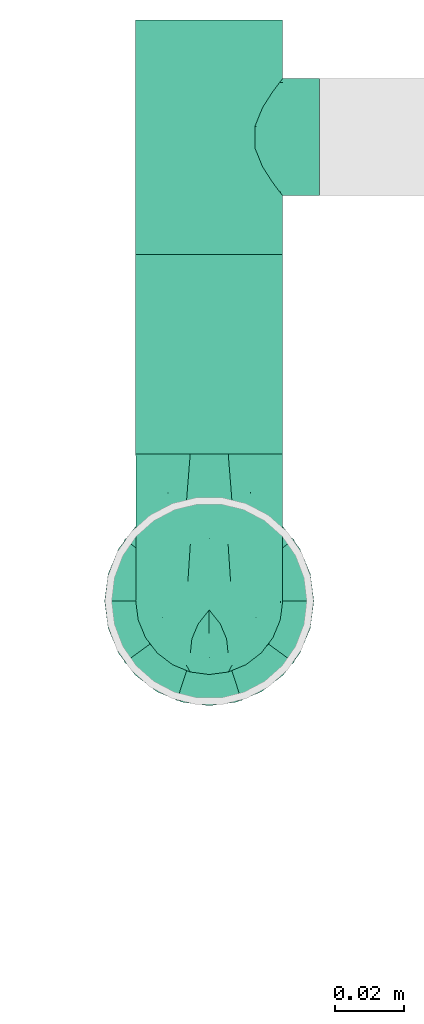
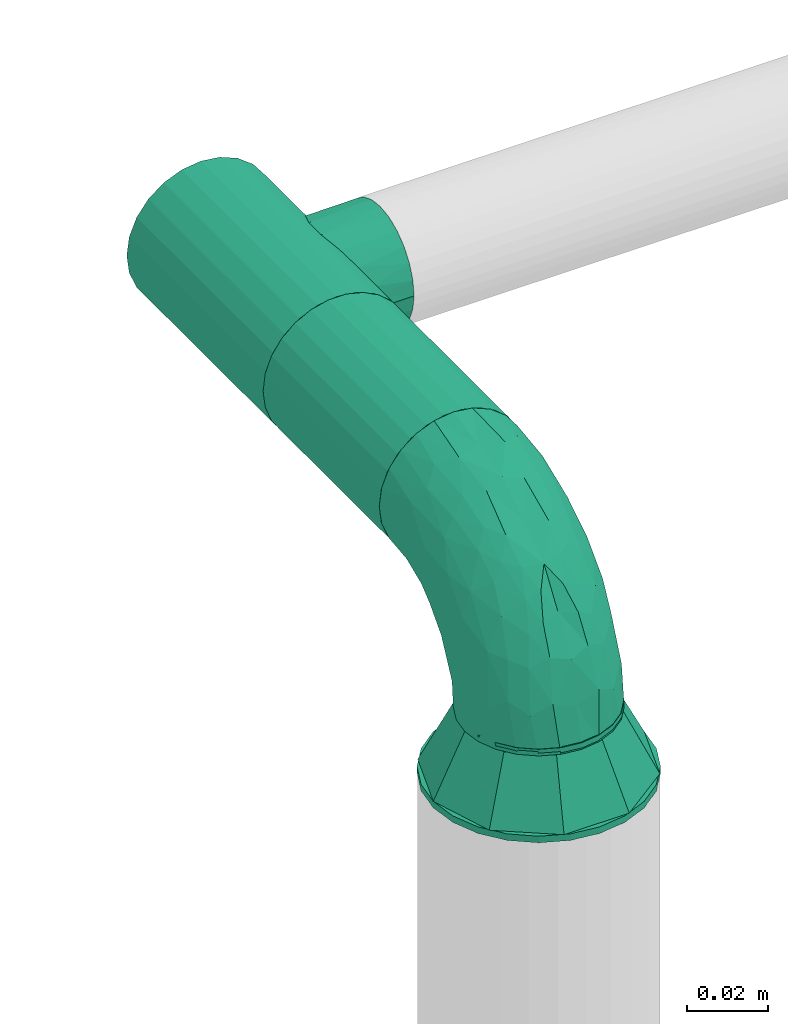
# One storey, part 57 of 63: 3 flow fittings, 1 flow segment.
"""IFC2X3 building model written with IfcOpenShell, lengths in millimetres."""

from ifc_helpers import new_model, entity, si_unit, converted_unit, derived_unit, direction, frame, origin_with_axes, origin_2d_with_axis, place, context, subcontext, project, spatial, hollow_circle, extrude, open_shell, surface_model, source, transform, mapped, type_object, element, save


model = new_model("IFC2X3")

# Units and contexts
model_context = context("Model", 3, precision=0.01, world=frame((0.0, 4.29681676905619e-09, 0.0)), true_north=direction((4.01073788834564e-13, 1.0)))
plan_context = context("Plan", 3, precision=0.01, world=frame((0.0, 4.29681676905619e-09, 0.0)), true_north=direction((4.01073788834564e-13, 1.0)))
body_context = subcontext(model_context, "Body", "Model", "MODEL_VIEW")
ifc_project = project(units=[converted_unit("PLANEANGLEUNIT", "DEGREE", entity("IfcPositiveLengthMeasure", 0.0174532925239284), si_unit("PLANEANGLEUNIT", "RADIAN"), dimensions=[0, 0, 0, 0, 0, 0, 0]), si_unit("AREAUNIT", "SQUARE_METRE"), si_unit("LENGTHUNIT", "METRE", prefix="MILLI"), si_unit("MASSUNIT", "GRAM", prefix="KILO"), si_unit("POWERUNIT", "WATT"), si_unit("PRESSUREUNIT", "PASCAL", prefix="KILO"), si_unit("FORCEUNIT", "NEWTON", prefix="KILO"), si_unit("ELECTRICVOLTAGEUNIT", "VOLT"), si_unit("ELECTRICCURRENTUNIT", "AMPERE"), si_unit("THERMODYNAMICTEMPERATUREUNIT", "DEGREE_CELSIUS"), si_unit("TIMEUNIT", "SECOND"), si_unit("VOLUMEUNIT", "CUBIC_METRE"), derived_unit("LINEARVELOCITYUNIT", [(si_unit("LENGTHUNIT", "METRE"), 1), (si_unit("TIMEUNIT", "SECOND"), -1)]), derived_unit("VOLUMETRICFLOWRATEUNIT", [(si_unit("VOLUMEUNIT", "CUBIC_METRE"), 1), (si_unit("TIMEUNIT", "SECOND"), -1)]), derived_unit("THERMALTRANSMITTANCEUNIT", [(si_unit("POWERUNIT", "WATT"), 1), (si_unit("THERMODYNAMICTEMPERATUREUNIT", "KELVIN"), -1), (si_unit("AREAUNIT", "SQUARE_METRE"), -1)]), derived_unit("SOUNDPRESSUREUNIT", [(si_unit("PRESSUREUNIT", "PASCAL"), 1)])], contexts=[model_context, plan_context])

# Site, building, storey
site_placement = place(None, frame((0.0, -4.29681676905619e-09, 0.0), z_axis=(0.0, 0.0, 1.0), x_axis=(1.0, 0.0, 0.0)))
site = spatial("IfcSite", under=ifc_project, at=site_placement, CompositionType="ELEMENT")
building_placement = place(site_placement, frame((0.0, 4.29681676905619e-09, 0.0), z_axis=(0.0, 0.0, 1.0), x_axis=(1.0, 0.0, 0.0)))
building = spatial("IfcBuilding", under=site, at=building_placement, Name="mc-building", CompositionType="ELEMENT")
storey_placement = place(building_placement, frame((0.0, 0.0, 207370.0), z_axis=(0.0, 0.0, 1.0), x_axis=(1.0, 0.0, 0.0)))
storey = spatial("IfcBuildingStorey", under=building, at=storey_placement, Name="Nivå E", CompositionType="ELEMENT", Elevation=207370.0)

# Flow fittings
pipe_fitting_type_1 = type_object("IfcPipeFittingType", Name="magi_pipe_fe_elbow_short_001", PredefinedType="BEND")
shared_shape_1 = source(origin_with_axes(), body_context, "Body", "SurfaceModel", [
    surface_model("IfcShellBasedSurfaceModel", [(-42.4, 10.6, -18.35974), (-42.4, 5.48696, -20.47763), (-42.4, 0.0, -21.2), (-42.4, 14.99066, -14.99066), (-42.4, 20.47763, -5.48696), (-42.4, 18.35974, -10.6), (-42.4, -14.99066, 14.99066), (-42.4, -21.2, 0.0), (-42.4, -10.6, -18.35974), (-42.4, -14.99066, -14.99066), (-42.4, -5.48696, -20.47763), (-42.4, -18.35974, -10.6), (-42.4, -20.47763, -5.48696), (-42.4, 10.6, 18.35974), (-42.4, 20.47763, 5.48696), (-42.4, 18.35974, 10.6), (-42.4, 14.99066, 14.99066), (-42.4, 5.48696, 20.47763), (-42.4, 0.0, 21.2), (-42.4, -20.47763, 5.48696), (-42.4, -18.35974, 10.6), (-42.4, -10.6, 18.35974), (-42.4, -5.48696, 20.47763), (-42.4, 21.2, 0.0), (0.0, 42.4, -21.2), (-5.48696, 42.4, -20.47763), (-10.6, 42.4, -18.35974), (-14.99066, 42.4, -14.99066), (-18.35974, 42.4, -10.6), (-20.47763, 42.4, -5.48696), (21.2, 42.4, 0.0), (5.48696, 42.4, -20.47763), (14.99066, 42.4, -14.99066), (10.6, 42.4, -18.35974), (18.35974, 42.4, -10.6), (20.47763, 42.4, -5.48696), (14.99066, 42.4, 14.99066), (-20.47763, 42.4, 5.48696), (-10.6, 42.4, 18.35974), (-14.99066, 42.4, 14.99066), (-18.35974, 42.4, 10.6), (-5.48696, 42.4, 20.47763), (0.0, 42.4, 21.2), (18.35974, 42.4, 10.6), (20.47763, 42.4, 5.48696), (5.48696, 42.4, 20.47763), (10.6, 42.4, 18.35974), (-21.2, 42.4, 0.0), (-31.10239, -16.47009, 11.90111), (-27.83957, -12.231, 15.79732), (-30.23067, -18.77937, 0.0), (-18.74048, -13.50096, 10.69998), (-28.17586, -18.50359, 6.61185), (18.50359, 28.17586, 6.61185), (14.95929, 16.60735, 5.43468), (16.35874, 18.06133, 0.0), (-20.72313, 33.83635, 9.21426), (-17.70981, 33.00599, 13.92769), (-31.16033, -8.01664, 19.07348), (-32.38682, -2.80842, 20.83743), (-29.68688, 3.24967, 21.16387), (-7.74467, -9.46536, 0.0), (-16.60735, -14.95929, 5.43468), (-18.06133, -16.35874, 0.0), (-16.37932, -5.14532, 17.61254), (-21.10659, -0.19025, 20.54817), (-1.82445, -3.58377, 9.55223), (-0.35533, 0.43745, 12.66367), (-7.20655, -5.07682, 13.06146), (-33.14056, 17.6728, 13.91288), (-7.36799, 20.84806, 21.16196), (-15.70315, 15.70315, 20.68489), (-12.62356, 9.26422, 21.0908), (-36.67879, 12.83836, 17.27427), (-7.91358, 36.5686, 19.85759), (-2.90555, 31.71221, 21.14793), (-33.84689, 20.71971, 9.21285), (-33.51649, 22.58113, 4.66115), (-26.3226, 26.3226, 7.92474), (-32.67995, 8.31454, 20.02643), (-5.53379, 14.19921, 20.81623), (-10.53385, 3.88918, 19.79653), (-2.16577, 11.45378, 19.48254), (-3.78693, 3.78693, 17.3328), (12.231, 27.83957, 15.79732), (13.50096, 18.74047, 10.69998), (16.47009, 31.10239, 11.90111), (-22.53806, 14.38475, 19.60876), (-23.29615, 9.08095, 20.82061), (2.80842, 32.38682, 20.83743), (8.01664, 31.16033, 19.07348), (5.14532, 16.37932, 17.61254), (18.77937, 30.23067, 0.0), (-20.80278, 5.19491, 21.19095), (-19.62579, 22.38752, 17.42006), (-29.19336, 14.39093, 17.85259), (-22.31569, 34.20044, 4.54807), (-26.56962, 27.80621, 3.73106), (9.67657, 17.17133, 14.49993), (-24.04026, 31.8, 0.0), (-9.16861, 28.72652, 20.19004), (-12.09761, 21.9456, 20.37969), (-15.36991, 27.40112, 17.818), (-16.88976, 20.52477, 19.2896), (-12.95169, 35.54896, 17.36222), (-17.17133, -9.67657, 14.49993), (-21.98655, 28.10245, 11.99898), (-22.34699, 23.67592, 15.01692), (-27.22822, 22.77969, 11.82161), (0.19025, 21.10658, 20.54817), (4.8276, 7.36347, 13.42842), (-10.06209, -9.46364, 9.95114), (1.25876, -2.7536, 5.73797), (6.43781, 3.77591, 7.40371), (6.57528, 2.20066, 3.17705), (10.91934, 8.84313, 5.00748), (10.64415, 10.99764, 8.89767), (-31.8, 24.04026, 0.0), (-5.71381, -8.43063, 6.15529), (2.57199, -2.57199, 0.0), (9.46536, 7.74467, 0.0), (-17.17133, -9.67657, -14.49993), (-27.83957, -12.231, -15.79732), (-16.37932, -5.14532, -17.61254), (-18.74048, -13.50096, -10.69998), (-33.00599, 17.70981, -13.92769), (-35.54896, 12.95169, -17.36222), (-34.20044, 22.31569, -4.54807), (-28.17586, -18.50359, -6.61185), (-26.3226, 26.3226, -7.92474), (-33.83635, 20.72313, -9.21426), (-16.60735, -14.95929, -5.43468), (-20.52477, 16.88976, -19.2896), (-21.9456, 12.0976, -20.37969), (-27.40112, 15.36991, -17.818), (-12.83836, 36.67879, -17.27427), (-17.6728, 33.14056, -13.91288), (8.01664, 31.16033, -19.07348), (5.14532, 16.37932, -17.61254), (0.19025, 21.10658, -20.54817), (-36.5686, 7.91358, -19.85759), (-31.10239, -16.47009, -11.90111), (-31.16033, -8.01664, -19.07348), (-14.38475, 22.53806, -19.60876), (-8.31454, 32.67995, -20.02643), (-9.08095, 23.29615, -20.82061), (-32.38682, -2.80842, -20.83743), (-20.84806, 7.36799, -21.16196), (-15.70315, 15.70314, -20.68489), (-9.26422, 12.62356, -21.0908), (-31.71221, 2.90555, -21.14793), (-22.58113, 33.51649, -4.66115), (-20.71971, 33.84689, -9.21285), (-28.72652, 9.16861, -20.19004), (-27.80621, 26.56962, -3.73106), (-5.19491, 20.80278, -21.19095), (-22.38752, 19.62579, -17.42006), (-14.39093, 29.19336, -17.85259), (2.80842, 32.38682, -20.83743), (-3.24967, 29.68688, -21.16387), (16.47009, 31.10239, -11.90111), (12.231, 27.83957, -15.79732), (6.57528, 2.20067, -3.17705), (10.91934, 8.84313, -5.00749), (-14.19921, 5.53379, -20.81623), (-3.88918, 10.53385, -19.79653), (-11.45378, 2.16577, -19.48254), (1.25876, -2.7536, -5.73797), (-5.71381, -8.43063, -6.15529), (-1.82445, -3.58377, -9.55223), (13.50096, 18.74048, -10.69998), (18.50359, 28.17586, -6.61185), (14.95929, 16.60735, -5.43468), (-28.10245, 21.98655, -11.99898), (9.67657, 17.17133, -14.49993), (10.64415, 10.99764, -8.89767), (4.8276, 7.36347, -13.42842), (-23.67592, 22.34699, -15.01692), (-22.77969, 27.22822, -11.82161), (-21.10658, -0.19025, -20.54817), (-3.78693, 3.78693, -17.3328), (-7.20655, -5.07682, -13.06146), (-10.06209, -9.46364, -9.95113), (-0.35533, 0.43745, -12.66367), (6.43781, 3.77591, -7.40371)], [open_shell([[[0, 1, 2]], [[3, 0, 2]], [[4, 5, 3]], [[2, 4, 3]], [[6, 2, 7]], [[8, 9, 10]], [[11, 10, 9]], [[12, 7, 11]], [[2, 10, 11]], [[11, 7, 2]], [[6, 4, 2]], [[13, 14, 4]], [[15, 14, 16]], [[4, 6, 13]], [[16, 14, 13]], [[17, 13, 18]], [[19, 20, 7]], [[7, 20, 6]], [[21, 22, 6]], [[18, 6, 22]], [[6, 18, 13]], [[23, 4, 14]], [[24, 25, 26]], [[24, 26, 27]], [[27, 28, 29]], [[27, 29, 24]], [[24, 29, 30]], [[31, 32, 33]], [[31, 24, 32]], [[34, 30, 35]], [[32, 24, 34]], [[24, 30, 34]], [[29, 36, 30]], [[29, 37, 38]], [[39, 37, 40]], [[36, 29, 38]], [[38, 37, 39]], [[41, 42, 38]], [[30, 43, 44]], [[36, 43, 30]], [[36, 45, 46]], [[45, 36, 42]], [[38, 42, 36]], [[37, 29, 47]], [[6, 48, 49]], [[19, 7, 50]], [[51, 48, 52]], [[53, 54, 55]], [[48, 6, 20]], [[19, 52, 20]], [[40, 56, 57]], [[49, 21, 6]], [[49, 58, 21]], [[18, 59, 60]], [[61, 62, 63]], [[58, 64, 65]], [[66, 67, 68]], [[15, 16, 69]], [[70, 71, 72]], [[13, 73, 16]], [[22, 59, 18]], [[41, 74, 75]], [[18, 60, 17]], [[15, 69, 76]], [[16, 73, 69]], [[23, 14, 77]], [[14, 15, 76]], [[77, 76, 78]], [[17, 79, 13]], [[80, 81, 82]], [[68, 83, 64]], [[84, 36, 46]], [[85, 86, 84]], [[87, 79, 88]], [[21, 58, 22]], [[42, 89, 45]], [[53, 44, 43]], [[42, 41, 75]], [[84, 90, 91]], [[43, 86, 53]], [[92, 44, 53]], [[86, 43, 36]], [[90, 46, 45]], [[53, 55, 92]], [[88, 93, 72]], [[54, 53, 85]], [[87, 94, 95]], [[78, 96, 97]], [[98, 84, 91]], [[99, 96, 47]], [[79, 17, 60]], [[96, 78, 56]], [[62, 52, 63]], [[57, 39, 40]], [[100, 70, 75]], [[101, 102, 103]], [[19, 50, 52]], [[104, 38, 39]], [[74, 41, 38]], [[57, 102, 104]], [[105, 64, 49]], [[90, 84, 46]], [[40, 37, 56]], [[56, 106, 57]], [[102, 57, 107]], [[95, 107, 69]], [[76, 108, 78]], [[100, 101, 70]], [[89, 75, 109]], [[64, 58, 49]], [[63, 52, 50]], [[59, 58, 65]], [[105, 49, 51]], [[64, 83, 81]], [[89, 90, 45]], [[30, 44, 92]], [[109, 82, 91]], [[109, 91, 90]], [[91, 83, 110]], [[111, 68, 105]], [[66, 68, 111]], [[62, 51, 52]], [[66, 112, 113]], [[114, 115, 113]], [[98, 85, 84]], [[52, 48, 20]], [[49, 48, 51]], [[84, 86, 36]], [[53, 86, 85]], [[88, 79, 60]], [[73, 79, 95]], [[96, 56, 37]], [[78, 108, 106]], [[87, 103, 94]], [[100, 74, 104]], [[108, 69, 107]], [[78, 97, 77]], [[88, 72, 71]], [[109, 75, 70]], [[81, 72, 65]], [[70, 72, 80]], [[75, 89, 42]], [[90, 89, 109]], [[58, 59, 22]], [[60, 59, 65]], [[67, 83, 68]], [[110, 113, 116]], [[88, 60, 93]], [[87, 88, 71]], [[103, 87, 71]], [[79, 87, 95]], [[101, 103, 71]], [[94, 103, 102]], [[47, 96, 37]], [[96, 99, 97]], [[99, 117, 97]], [[97, 117, 77]], [[23, 77, 117]], [[14, 76, 77]], [[60, 65, 93]], [[65, 72, 93]], [[70, 101, 71]], [[102, 101, 100]], [[69, 108, 76]], [[106, 108, 107]], [[57, 106, 107]], [[78, 106, 56]], [[57, 104, 39]], [[100, 104, 102]], [[102, 107, 94]], [[95, 94, 107]], [[64, 81, 65]], [[82, 81, 83]], [[91, 82, 83]], [[80, 82, 109]], [[70, 80, 109]], [[81, 80, 72]], [[79, 73, 13]], [[69, 73, 95]], [[104, 74, 38]], [[75, 74, 100]], [[62, 61, 118]], [[111, 62, 118]], [[113, 115, 116]], [[119, 118, 61]], [[111, 105, 51]], [[113, 112, 114]], [[120, 55, 54]], [[68, 64, 105]], [[91, 110, 98]], [[116, 98, 110]], [[62, 111, 51]], [[66, 111, 118]], [[112, 66, 118]], [[67, 113, 110]], [[118, 119, 112]], [[114, 112, 119]], [[119, 120, 114]], [[115, 120, 54]], [[120, 115, 114]], [[116, 54, 85]], [[54, 116, 115]], [[116, 85, 98]], [[113, 67, 66]], [[83, 67, 110]], [[121, 122, 123]], [[122, 121, 124]], [[5, 125, 3]], [[3, 126, 0]], [[117, 127, 23]], [[50, 12, 128]], [[127, 129, 130]], [[128, 131, 63]], [[132, 133, 134]], [[27, 135, 136]], [[137, 138, 139]], [[0, 140, 1]], [[128, 11, 141]], [[142, 8, 10]], [[128, 63, 50]], [[5, 4, 130]], [[11, 9, 141]], [[143, 144, 145]], [[146, 10, 2]], [[147, 148, 149]], [[11, 128, 12]], [[124, 141, 122]], [[150, 2, 1]], [[151, 152, 129]], [[125, 134, 126]], [[153, 147, 150]], [[127, 154, 129]], [[145, 155, 149]], [[47, 29, 151]], [[143, 156, 157]], [[152, 29, 28]], [[24, 158, 159]], [[122, 9, 8]], [[27, 26, 135]], [[144, 26, 25]], [[32, 160, 161]], [[24, 31, 158]], [[120, 162, 163]], [[130, 125, 5]], [[27, 136, 28]], [[1, 140, 150]], [[33, 161, 137]], [[142, 122, 8]], [[24, 159, 25]], [[164, 165, 166]], [[167, 168, 169]], [[34, 160, 32]], [[161, 33, 32]], [[170, 160, 171]], [[131, 128, 124]], [[30, 92, 35]], [[35, 92, 171]], [[172, 171, 55]], [[35, 171, 34]], [[144, 25, 159]], [[130, 173, 125]], [[174, 175, 176]], [[136, 152, 28]], [[33, 137, 31]], [[122, 142, 123]], [[134, 125, 177]], [[157, 177, 136]], [[152, 178, 129]], [[153, 133, 147]], [[146, 150, 179]], [[146, 142, 10]], [[7, 12, 50]], [[179, 166, 123]], [[179, 123, 142]], [[123, 180, 181]], [[138, 137, 161]], [[55, 171, 92]], [[158, 137, 139]], [[174, 161, 170]], [[138, 180, 165]], [[180, 138, 176]], [[124, 121, 182]], [[176, 183, 180]], [[61, 131, 168]], [[169, 168, 182]], [[172, 170, 171]], [[122, 141, 9]], [[128, 141, 124]], [[171, 160, 34]], [[161, 160, 170]], [[145, 144, 159]], [[135, 144, 157]], [[127, 130, 4]], [[129, 178, 173]], [[143, 132, 156]], [[153, 140, 126]], [[178, 136, 177]], [[129, 154, 151]], [[145, 149, 148]], [[179, 150, 147]], [[165, 149, 139]], [[147, 149, 164]], [[150, 146, 2]], [[142, 146, 179]], [[137, 158, 31]], [[159, 158, 139]], [[174, 138, 161]], [[184, 169, 183]], [[145, 159, 155]], [[143, 145, 148]], [[132, 143, 148]], [[144, 143, 157]], [[133, 132, 148]], [[156, 132, 134]], [[23, 127, 4]], [[127, 117, 154]], [[117, 99, 154]], [[154, 99, 151]], [[47, 151, 99]], [[29, 152, 151]], [[159, 139, 155]], [[139, 149, 155]], [[147, 133, 148]], [[134, 133, 153]], [[136, 178, 152]], [[173, 178, 177]], [[125, 173, 177]], [[129, 173, 130]], [[125, 126, 3]], [[153, 126, 134]], [[134, 177, 156]], [[157, 156, 177]], [[138, 165, 139]], [[166, 165, 180]], [[123, 166, 180]], [[164, 166, 179]], [[147, 164, 179]], [[165, 164, 149]], [[144, 135, 26]], [[136, 135, 157]], [[126, 140, 0]], [[150, 140, 153]], [[182, 131, 124]], [[168, 119, 61]], [[119, 167, 162]], [[63, 131, 61]], [[172, 163, 175]], [[172, 55, 120]], [[123, 181, 121]], [[182, 121, 181]], [[175, 174, 170]], [[176, 138, 174]], [[169, 182, 181]], [[131, 182, 168]], [[183, 169, 181]], [[167, 169, 184]], [[162, 167, 184]], [[119, 168, 167]], [[163, 162, 184]], [[120, 119, 162]], [[175, 163, 184]], [[120, 163, 172]], [[176, 175, 184]], [[172, 175, 170]], [[180, 183, 181]], [[184, 183, 176]]])]),
])
flow_fitting_1_placement = place(storey_placement, frame((728641.29045, 446029.40604, 2700.0), z_axis=(1.0, 0.0, 0.0), x_axis=(0.0, -1.0, 0.0)))
element("IfcFlowFitting", 1, at=flow_fitting_1_placement, inside=storey, type_object=pipe_fitting_type_1, Name="magi_pipe_fe_elbow_short_001", context=body_context, shape_type="MappedRepresentation", body=[
    mapped(shared_shape_1, transform((0.0, 0.0, 0.0), scale=1.0)),
])
pipe_fitting_type_2 = type_object("IfcPipeFittingType", Name="magi_pipe_fe_reducer_centric_short_NOR", PredefinedType="TRANSITION")
shared_shape_2 = source(origin_with_axes(), body_context, "Body", "SurfaceModel", [
    surface_model("IfcShellBasedSurfaceModel", [(-2.0, -10.6, -18.35974), (-2.0, 0.0, -21.2), (-2.0, -5.48696, -20.47763), (-2.0, 5.48696, -20.47763), (-2.0, 10.6, -18.35974), (-2.0, 0.0, 21.2), (-2.0, 5.48696, 20.47763), (-2.0, 10.6, 18.35974), (-2.0, 14.99066, 14.99066), (-2.0, 18.35974, 10.6), (-2.0, 20.47763, 5.48696), (-2.0, -21.2, 0.0), (-2.0, -14.99066, -14.99066), (-2.0, -5.48696, 20.47763), (-2.0, -14.99066, 14.99066), (-2.0, -10.6, 18.35974), (-2.0, -18.35974, 10.6), (-2.0, -20.47763, 5.48696), (-2.0, 20.47763, -5.48696), (-2.0, 14.99066, -14.99066), (-2.0, 18.35974, -10.6), (-2.0, -18.35974, -10.6), (-2.0, -20.47763, -5.48696), (-2.0, 21.2, 0.0), (0.0, 10.6, -18.35974), (0.0, 0.0, -21.2), (0.0, 5.48696, -20.47763), (0.0, 20.47763, -5.48696), (0.0, 14.99066, -14.99066), (0.0, -21.2, 0.0), (0.0, -14.99066, -14.99066), (0.0, 18.35974, -10.6), (0.0, -10.6, -18.35974), (0.0, -5.48696, -20.47763), (0.0, -18.35974, -10.6), (0.0, -20.47763, -5.48696), (0.0, -18.35974, 10.6), (0.0, 21.2, 0.0), (0.0, 20.47763, 5.48696), (0.0, 18.35974, 10.6), (0.0, 14.99066, 14.99066), (0.0, 0.0, 21.2), (0.0, 10.6, 18.35974), (0.0, 5.48696, 20.47763), (0.0, -14.99066, 14.99066), (0.0, -20.47763, 5.48696), (0.0, -5.48696, 20.47763), (0.0, -10.6, 18.35974), (0.0, -6.55116, 20.1624), (0.0, -17.15116, -12.46105), (0.0, -17.15116, 12.46105), (0.0, 17.15116, -12.46105), (0.0, -6.55116, -20.1624), (0.0, 6.55116, -20.1624), (0.0, 6.55116, 20.1624), (0.0, 17.15116, 12.46105), (20.0, 7.81634, -29.17096), (20.0, 15.1, -26.15397), (20.0, 21.35462, -21.35462), (20.0, 30.2, 0.0), (20.0, 26.15397, -15.1), (20.0, 29.17096, -7.81634), (20.0, -15.1, -26.15397), (20.0, -29.17096, 7.81634), (20.0, 0.0, -30.2), (20.0, -7.81634, -29.17096), (20.0, -21.35462, -21.35462), (20.0, -29.17096, -7.81634), (20.0, -26.15397, -15.1), (20.0, 29.17096, 7.81634), (20.0, 26.15397, 15.1), (20.0, 21.35462, 21.35462), (20.0, 0.0, 30.2), (20.0, 15.1, 26.15397), (20.0, 7.81634, 29.17096), (20.0, -21.35462, 21.35462), (20.0, -26.15397, 15.1), (20.0, -30.2, 0.0), (20.0, -7.81634, 29.17096), (20.0, -15.1, 26.15397), (18.0, 21.35462, 21.35462), (18.0, 0.0, 30.2), (18.0, 7.81634, 29.17096), (18.0, 15.1, 26.15397), (18.0, 26.15397, 15.1), (18.0, 29.17096, 7.81634), (18.0, -29.17096, 7.81634), (18.0, 30.2, 0.0), (18.0, -7.81634, 29.17096), (18.0, -21.35462, 21.35462), (18.0, -15.1, 26.15397), (18.0, -26.15397, 15.1), (18.0, -30.2, 0.0), (18.0, 29.17096, -7.81634), (18.0, 26.15397, -15.1), (18.0, 21.35462, -21.35462), (18.0, 15.1, -26.15397), (18.0, 7.81634, -29.17096), (18.0, -15.1, -26.15397), (18.0, -29.17096, -7.81634), (18.0, -21.35462, -21.35462), (18.0, -26.15397, -15.1), (18.0, 0.0, -30.2), (18.0, -7.81634, -29.17096), (18.0, 9.33231, 28.72191), (18.0, -9.33231, 28.72191), (18.0, 24.43231, -17.75111), (18.0, 24.43231, 17.75111), (18.0, -24.43231, 17.75111), (18.0, -24.43231, -17.75111), (18.0, -9.33231, -28.72191), (18.0, 9.33231, -28.72191), (18.0, -27.31616, -8.87556), (0.0, -19.17558, -6.23052), (0.0, 0.0, -20.1624), (18.0, 0.0, -28.72191), (0.0, -11.85116, -16.31172), (18.0, -16.88231, -23.23651), (18.0, 28.43849, -5.42138), (18.0, 26.67698, -10.84276), (0.0, 19.17558, -6.23052), (18.0, 16.88231, -23.23651), (0.0, 11.85116, -16.31172), (18.0, 27.31616, 8.87556), (0.0, 19.17558, 6.23052), (0.0, 0.0, 20.1624), (18.0, 0.0, 28.72191), (0.0, 11.85116, 16.31172), (18.0, 16.88231, 23.23651), (18.0, -28.43849, 5.42138), (18.0, -26.67698, 10.84276), (0.0, -19.17558, 6.23052), (18.0, -16.88231, 23.23651), (0.0, -11.85116, 16.31172)], [open_shell([[[0, 1, 2]], [[3, 1, 4]], [[5, 6, 7]], [[5, 7, 8]], [[8, 9, 10]], [[8, 10, 5]], [[11, 5, 12]], [[13, 14, 15]], [[13, 5, 14]], [[16, 11, 17]], [[14, 5, 16]], [[5, 11, 16]], [[5, 10, 12]], [[10, 18, 4]], [[19, 18, 20]], [[12, 10, 4]], [[4, 18, 19]], [[11, 21, 22]], [[12, 21, 11]], [[0, 12, 4]], [[1, 0, 4]], [[18, 10, 23]], [[24, 25, 26]], [[27, 24, 28]], [[29, 30, 24]], [[27, 28, 31]], [[27, 29, 24]], [[25, 32, 33]], [[25, 24, 32]], [[34, 29, 35]], [[32, 24, 30]], [[34, 30, 29]], [[36, 27, 37]], [[38, 39, 40]], [[38, 40, 41]], [[42, 43, 41]], [[42, 41, 40]], [[38, 41, 44]], [[29, 36, 45]], [[27, 36, 29]], [[44, 46, 47]], [[36, 38, 44]], [[41, 46, 44]], [[36, 37, 38]], [[22, 35, 11]], [[21, 34, 22]], [[32, 12, 0]], [[21, 12, 30]], [[33, 0, 2]], [[22, 34, 35]], [[35, 29, 11]], [[33, 32, 0]], [[30, 12, 32]], [[30, 34, 21]], [[25, 33, 2]], [[2, 1, 25]], [[3, 26, 1]], [[4, 24, 3]], [[31, 19, 20]], [[4, 19, 28]], [[27, 20, 18]], [[4, 28, 24]], [[24, 26, 3]], [[37, 27, 18]], [[31, 20, 27]], [[31, 28, 19]], [[23, 37, 18]], [[1, 26, 25]], [[10, 38, 23]], [[9, 39, 10]], [[42, 8, 7]], [[9, 8, 40]], [[43, 7, 6]], [[10, 39, 38]], [[38, 37, 23]], [[43, 42, 7]], [[40, 8, 42]], [[40, 39, 9]], [[41, 43, 6]], [[6, 5, 41]], [[13, 46, 5]], [[15, 47, 13]], [[36, 14, 16]], [[15, 14, 44]], [[45, 16, 17]], [[15, 44, 47]], [[47, 46, 13]], [[29, 45, 17]], [[36, 16, 45]], [[36, 44, 14]], [[11, 29, 17]], [[5, 46, 41]], [[48, 49, 50]], [[37, 51, 49]], [[51, 52, 49]], [[52, 51, 53]], [[37, 49, 48]], [[54, 55, 37]], [[56, 57, 58]], [[56, 58, 59]], [[60, 61, 59]], [[60, 59, 58]], [[62, 56, 63]], [[64, 62, 65]], [[64, 56, 62]], [[66, 67, 68]], [[67, 66, 62]], [[62, 63, 67]], [[63, 56, 59]], [[69, 70, 71]], [[71, 72, 59]], [[73, 74, 72]], [[73, 72, 71]], [[59, 72, 75]], [[63, 75, 76]], [[77, 67, 63]], [[75, 78, 79]], [[63, 59, 75]], [[78, 75, 72]], [[69, 71, 59]], [[80, 81, 82]], [[80, 82, 83]], [[80, 84, 85]], [[81, 80, 86]], [[87, 86, 80]], [[88, 89, 90]], [[88, 81, 89]], [[89, 86, 91]], [[81, 86, 89]], [[86, 87, 92]], [[87, 80, 85]], [[87, 93, 94]], [[87, 94, 95]], [[95, 96, 97]], [[95, 97, 87]], [[97, 98, 92]], [[99, 100, 101]], [[100, 99, 98]], [[98, 102, 103]], [[99, 92, 98]], [[97, 102, 98]], [[92, 87, 97]], [[99, 67, 92]], [[101, 68, 99]], [[62, 100, 98]], [[101, 100, 66]], [[65, 98, 103]], [[99, 68, 67]], [[67, 77, 92]], [[65, 62, 98]], [[66, 100, 62]], [[66, 68, 101]], [[64, 65, 103]], [[103, 102, 64]], [[97, 56, 102]], [[96, 57, 97]], [[60, 95, 94]], [[96, 95, 58]], [[61, 94, 93]], [[96, 58, 57]], [[57, 56, 97]], [[59, 61, 93]], [[60, 94, 61]], [[60, 58, 95]], [[87, 59, 93]], [[102, 56, 64]], [[85, 69, 87]], [[84, 70, 85]], [[73, 80, 83]], [[84, 80, 71]], [[74, 83, 82]], [[85, 70, 69]], [[69, 59, 87]], [[74, 73, 83]], [[71, 80, 73]], [[71, 70, 84]], [[72, 74, 82]], [[82, 81, 72]], [[88, 78, 81]], [[90, 79, 88]], [[76, 89, 91]], [[90, 89, 75]], [[63, 91, 86]], [[90, 75, 79]], [[79, 78, 88]], [[77, 63, 86]], [[76, 91, 63]], [[76, 75, 89]], [[92, 77, 86]], [[81, 78, 72]], [[92, 104, 105]], [[104, 106, 107]], [[87, 107, 106]], [[92, 105, 108]], [[92, 109, 106]], [[106, 110, 111]], [[110, 106, 109]], [[92, 106, 104]], [[54, 37, 48]], [[29, 50, 49]], [[112, 29, 113]], [[114, 111, 115]], [[110, 116, 52]], [[29, 112, 92]], [[113, 109, 112]], [[117, 49, 116]], [[113, 49, 109]], [[115, 110, 52]], [[111, 114, 53]], [[118, 119, 120]], [[53, 121, 111]], [[121, 53, 122]], [[119, 51, 120]], [[49, 117, 109]], [[122, 106, 121]], [[51, 119, 106]], [[110, 117, 116]], [[37, 118, 120]], [[115, 52, 114]], [[118, 37, 87]], [[122, 51, 106]], [[123, 37, 124]], [[125, 105, 126]], [[104, 127, 54]], [[37, 123, 87]], [[124, 107, 123]], [[128, 55, 127]], [[124, 55, 107]], [[126, 104, 54]], [[105, 125, 48]], [[129, 130, 131]], [[48, 132, 105]], [[132, 48, 133]], [[130, 50, 131]], [[55, 128, 107]], [[133, 108, 132]], [[50, 130, 108]], [[104, 128, 127]], [[29, 129, 131]], [[126, 54, 125]], [[129, 29, 92]], [[133, 50, 108]]])]),
])
flow_fitting_2_placement = place(storey_placement, frame((728641.29045, 446029.40604, 2657.60000000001), z_axis=(0.0, -1.0, 0.0), x_axis=(0.0, 0.0, -1.0)))
element("IfcFlowFitting", 2, at=flow_fitting_2_placement, inside=storey, type_object=pipe_fitting_type_2, Name="magi_pipe_fe_reducer_centric_short_NOR", context=body_context, shape_type="MappedRepresentation", body=[
    mapped(shared_shape_2, transform((0.0, 0.0, 0.0), scale=1.0)),
])
pipe_fitting_type_3 = type_object("IfcPipeFittingType", Name="magi_pipe_fe_tee_centric_90_NOR", PredefinedType="JUNCTION")
shared_shape_3 = source(origin_with_axes(), body_context, "Body", "SurfaceModel", [
    surface_model("IfcShellBasedSurfaceModel", [(-33.8, 0.0, -21.2), (-33.8, -5.48696, -20.47763), (-33.8, 5.48696, -20.47763), (-33.8, 10.6, -18.35974), (-33.8, 14.99066, -14.99066), (-33.8, -20.47763, 5.48696), (-33.8, 18.35974, -10.6), (-33.8, 10.6, 18.35974), (-33.8, -14.99066, -14.99066), (-33.8, -18.35974, -10.6), (-33.8, -10.6, -18.35974), (-33.8, -20.47763, -5.48696), (-33.8, -21.2, 0.0), (-33.8, 18.35974, 10.6), (-33.8, 20.47763, -5.48696), (-33.8, 20.47763, 5.48696), (-33.8, 21.2, 0.0), (-33.8, 14.99066, 14.99066), (-33.8, 5.48696, 20.47763), (-33.8, 0.0, 21.2), (-33.8, -18.35974, 10.6), (-33.8, -14.99066, 14.99066), (-33.8, -10.6, 18.35974), (-33.8, -5.48696, 20.47763), (33.8, 5.48696, -20.47763), (33.8, -5.48696, -20.47763), (33.8, 0.0, -21.2), (33.8, 14.99066, -14.99066), (33.8, 10.6, -18.35974), (33.8, 18.35974, -10.6), (33.8, 20.47763, -5.48696), (33.8, -21.2, 0.0), (33.8, -10.6, -18.35974), (33.8, -18.35974, -10.6), (33.8, -14.99066, -14.99066), (33.8, -20.47763, -5.48696), (33.8, -20.47763, 5.48696), (33.8, 21.2, 0.0), (33.8, 20.47763, 5.48696), (33.8, 18.35974, 10.6), (33.8, 10.6, 18.35974), (33.8, 14.99066, 14.99066), (33.8, 0.0, 21.2), (33.8, 5.48696, 20.47763), (33.8, -14.99066, 14.99066), (33.8, -18.35974, 10.6), (33.8, -10.6, 18.35974), (33.8, -5.48696, 20.47763), (16.9, -21.2, 0.0), (15.78624, -20.32327, 6.03364), (12.81343, -18.11115, 11.01935), (8.52479, -15.37862, 14.59239), (3.07939, -13.16482, 16.61708), (-16.9, -21.2, 0.0), (-15.78686, -20.32375, 6.032), (-8.52604, -15.37932, 14.59166), (-3.0848, -13.16609, 16.61608), (-12.81602, -18.11299, 11.01634), (3.07939, -13.16482, -16.61708), (12.81343, -18.11115, -11.01935), (8.52479, -15.37862, -14.59239), (15.78624, -20.32327, -6.03364), (-3.0848, -13.16609, -16.61608), (-8.52604, -15.37932, -14.59166), (-12.81602, -18.11299, -11.01634), (-15.78686, -20.32375, -6.032), (4.37404, -31.8, -16.32415), (-16.9, -31.8, 0.0), (0.0, -31.8, -16.9), (14.63583, -31.8, -8.45), (8.45, -31.8, -14.63583), (16.32415, -31.8, -4.37404), (11.9501, -31.8, -11.9501), (-11.9501, -31.8, -11.9501), (-8.45, -31.8, -14.63583), (-4.37404, -31.8, -16.32415), (-14.63583, -31.8, -8.45), (-16.32415, -31.8, -4.37404), (16.9, -31.8, 0.0), (8.45, -31.8, 14.63583), (16.32415, -31.8, 4.37404), (14.63583, -31.8, 8.45), (-8.45, -31.8, 14.63583), (11.9501, -31.8, 11.9501), (4.37404, -31.8, 16.32415), (-16.32415, -31.8, 4.37404), (-11.9501, -31.8, 11.9501), (-14.63583, -31.8, 8.45), (0.0, -31.8, 16.9), (-4.37404, -31.8, 16.32415), (-16.34343, -20.76188, 3.016), (16.34312, -20.76163, 3.01682), (-0.00271, -13.16546, 16.61658), (16.34312, -20.76163, -3.01682), (-0.00271, -13.16546, -16.61658), (-16.34343, -20.76188, -3.016)], [open_shell([[[0, 1, 2]], [[3, 2, 4]], [[5, 2, 1]], [[4, 2, 6]], [[6, 2, 7]], [[8, 9, 10]], [[1, 10, 9]], [[9, 11, 1]], [[12, 1, 11]], [[5, 1, 12]], [[13, 14, 6]], [[13, 15, 16]], [[6, 7, 13]], [[5, 7, 2]], [[17, 13, 7]], [[18, 7, 19]], [[20, 21, 5]], [[22, 5, 21]], [[23, 19, 22]], [[7, 5, 22]], [[22, 19, 7]], [[16, 14, 13]], [[24, 25, 26]], [[27, 24, 28]], [[29, 30, 24]], [[29, 24, 27]], [[31, 24, 30]], [[32, 33, 34]], [[33, 32, 25]], [[33, 31, 35]], [[31, 33, 25]], [[25, 24, 31]], [[30, 36, 31]], [[37, 38, 39]], [[37, 39, 40]], [[37, 40, 36]], [[40, 39, 41]], [[42, 40, 43]], [[36, 44, 45]], [[44, 36, 46]], [[46, 42, 47]], [[46, 36, 40]], [[40, 42, 46]], [[37, 36, 30]], [[31, 36, 48]], [[49, 48, 36]], [[36, 45, 49]], [[45, 44, 50]], [[51, 50, 44]], [[52, 51, 44]], [[44, 46, 52]], [[45, 50, 49]], [[53, 54, 5]], [[5, 12, 53]], [[54, 20, 5]], [[55, 56, 21]], [[20, 57, 21]], [[57, 20, 54]], [[21, 57, 55]], [[56, 22, 21]], [[52, 22, 56]], [[19, 47, 42]], [[23, 46, 47]], [[18, 42, 43]], [[39, 38, 15]], [[17, 40, 41]], [[13, 41, 39]], [[43, 40, 7]], [[16, 38, 37]], [[22, 46, 23]], [[23, 47, 19]], [[18, 19, 42]], [[43, 7, 18]], [[7, 40, 17]], [[13, 17, 41]], [[15, 13, 39]], [[38, 16, 15]], [[46, 22, 52]], [[6, 30, 29]], [[14, 37, 30]], [[4, 29, 27]], [[26, 25, 1]], [[2, 28, 24]], [[0, 24, 26]], [[27, 28, 3]], [[10, 25, 32]], [[16, 37, 14]], [[14, 30, 6]], [[4, 6, 29]], [[27, 3, 4]], [[3, 28, 2]], [[0, 2, 24]], [[1, 0, 26]], [[25, 10, 1]], [[32, 58, 10]], [[34, 59, 60]], [[59, 34, 33]], [[60, 58, 34]], [[34, 58, 32]], [[35, 31, 48]], [[35, 61, 33]], [[61, 35, 48]], [[33, 61, 59]], [[62, 63, 8]], [[8, 64, 9]], [[64, 8, 63]], [[62, 8, 10]], [[65, 53, 11]], [[65, 11, 9]], [[11, 53, 12]], [[65, 9, 64]], [[58, 62, 10]], [[66, 67, 68]], [[69, 66, 70]], [[69, 71, 66]], [[69, 70, 72]], [[67, 66, 71]], [[68, 73, 74]], [[74, 75, 68]], [[76, 67, 77]], [[73, 68, 76]], [[67, 76, 68]], [[71, 78, 67]], [[79, 78, 80]], [[79, 80, 81]], [[82, 67, 79]], [[79, 81, 83]], [[82, 79, 84]], [[85, 86, 87]], [[86, 85, 82]], [[82, 88, 89]], [[85, 67, 82]], [[84, 88, 82]], [[79, 67, 78]], [[85, 90, 67]], [[57, 87, 86]], [[85, 87, 54]], [[86, 82, 55]], [[85, 54, 90]], [[90, 53, 67]], [[54, 87, 57]], [[91, 49, 80]], [[55, 89, 56]], [[55, 57, 86]], [[88, 52, 92]], [[55, 82, 89]], [[52, 88, 84]], [[79, 51, 84]], [[50, 83, 81]], [[83, 51, 79]], [[81, 80, 49]], [[83, 50, 51]], [[51, 52, 84]], [[78, 91, 80]], [[49, 50, 81]], [[91, 78, 48]], [[88, 56, 89]], [[92, 56, 88]], [[71, 93, 78]], [[59, 69, 72]], [[71, 69, 61]], [[72, 70, 60]], [[93, 48, 78]], [[61, 69, 59]], [[60, 66, 58]], [[60, 59, 72]], [[68, 62, 94]], [[60, 70, 66]], [[95, 67, 53]], [[95, 65, 77]], [[71, 61, 93]], [[75, 62, 68]], [[65, 76, 77]], [[73, 76, 64]], [[68, 58, 66]], [[75, 63, 62]], [[63, 75, 74]], [[74, 73, 63]], [[63, 73, 64]], [[64, 76, 65]], [[67, 95, 77]], [[94, 58, 68]]])]),
])
flow_fitting_3_placement = place(storey_placement, frame((728641.29045, 446163.23482, 2700.0), z_axis=(0.0, 0.0, 1.0), x_axis=(0.0, 1.0, 0.0)))
element("IfcFlowFitting", 3, at=flow_fitting_3_placement, inside=storey, type_object=pipe_fitting_type_3, Name="magi_pipe_fe_tee_centric_90_NOR", context=body_context, shape_type="MappedRepresentation", body=[
    mapped(shared_shape_3, transform((0.0, 0.0, 0.0), scale=1.0)),
])

# Flow segment
pipe_segment_type = type_object("IfcPipeSegmentType", Name="Stålrør normaltykke", PredefinedType="RIGIDSEGMENT")
shared_shape_4 = source(origin_with_axes(), body_context, "Body", "SweptSolid", [
    extrude(hollow_circle(Radius=21.2, WallThickness=2.0, at=origin_2d_with_axis()), frame((0.0, 0.0, 0.0), z_axis=(1.0, 0.0, 0.0), x_axis=(0.0, 1.0, 0.0)), (0.0, 0.0, 1.0), 57.6),
])
flow_segment_placement = place(storey_placement, frame((728641.29045, 446129.43482, 2700.0), z_axis=(0.0, 0.0, 1.0), x_axis=(0.0, -1.0, 0.0)))
element("IfcFlowSegment", 4, at=flow_segment_placement, inside=storey, type_object=pipe_segment_type, Name="Stålrør normaltykke", context=body_context, shape_type="MappedRepresentation", body=[
    mapped(shared_shape_4, transform((0.0, 0.0, 0.0), scale=1.0)),
])

save(model, "model.ifc")
